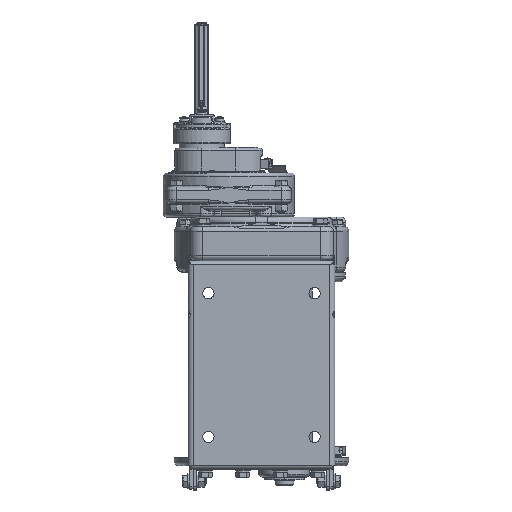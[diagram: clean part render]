
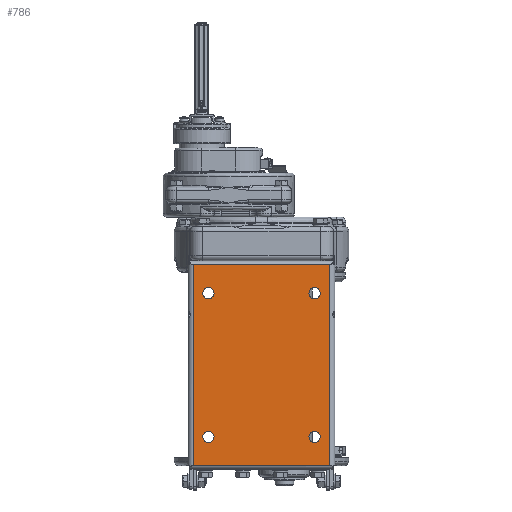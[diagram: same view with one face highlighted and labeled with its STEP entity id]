
A CAD part, front view. The second image highlights one B-rep face of the part: STEP entity #786.
In plain terms, the highlighted planar face has unit normal (0, -1, 0).
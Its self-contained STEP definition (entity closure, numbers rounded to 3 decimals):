
#786=ADVANCED_FACE('',(#10580,#10581,#10582,#10583,#10584),#10579,.F.);
#10579=PLANE('',#45892);
#10580=FACE_OUTER_BOUND('',#45893,.T.);
#10581=FACE_BOUND('',#45894,.T.);
#10582=FACE_BOUND('',#45895,.T.);
#10583=FACE_BOUND('',#45896,.T.);
#10584=FACE_BOUND('',#45897,.T.);
#45889=CARTESIAN_POINT('',(-171.432,-278.182,-566.035));
#45890=DIRECTION('',(0.,1.,0.));
#45891=DIRECTION('',(1.,0.,0.));
#45892=AXIS2_PLACEMENT_3D('',#45889,#45890,#45891);
#45893=EDGE_LOOP('',(#72919,#72920,#72921,#72922));
#45894=EDGE_LOOP('',(#72923,#72924,#72925));
#45895=EDGE_LOOP('',(#72926,#72927,#72928));
#45896=EDGE_LOOP('',(#72929,#72930,#72931));
#45897=EDGE_LOOP('',(#72932,#72933,#72934));
#72919=ORIENTED_EDGE('',*,*,#90101,.T.);
#72920=ORIENTED_EDGE('',*,*,#90113,.T.);
#72921=ORIENTED_EDGE('',*,*,#90110,.F.);
#72922=ORIENTED_EDGE('',*,*,#90173,.F.);
#72923=ORIENTED_EDGE('',*,*,#90183,.T.);
#72924=ORIENTED_EDGE('',*,*,#90184,.T.);
#72925=ORIENTED_EDGE('',*,*,#90185,.T.);
#72926=ORIENTED_EDGE('',*,*,#90186,.T.);
#72927=ORIENTED_EDGE('',*,*,#90187,.T.);
#72928=ORIENTED_EDGE('',*,*,#90188,.T.);
#72929=ORIENTED_EDGE('',*,*,#90189,.T.);
#72930=ORIENTED_EDGE('',*,*,#90190,.T.);
#72931=ORIENTED_EDGE('',*,*,#90191,.T.);
#72932=ORIENTED_EDGE('',*,*,#90192,.T.);
#72933=ORIENTED_EDGE('',*,*,#90193,.T.);
#72934=ORIENTED_EDGE('',*,*,#90194,.T.);
#90101=EDGE_CURVE('',#111485,#111478,#111486,.T.);
#90110=EDGE_CURVE('',#111539,#111546,#111547,.T.);
#90113=EDGE_CURVE('',#111478,#111546,#111565,.T.);
#90173=EDGE_CURVE('',#111485,#111539,#111957,.T.);
#90183=EDGE_CURVE('',#112020,#112021,#112022,.T.);
#90184=EDGE_CURVE('',#112021,#112028,#112029,.T.);
#90185=EDGE_CURVE('',#112028,#112020,#112035,.T.);
#90186=EDGE_CURVE('',#112041,#112042,#112043,.T.);
#90187=EDGE_CURVE('',#112042,#112049,#112050,.T.);
#90188=EDGE_CURVE('',#112049,#112041,#112056,.T.);
#90189=EDGE_CURVE('',#112062,#112063,#112064,.T.);
#90190=EDGE_CURVE('',#112063,#112070,#112071,.T.);
#90191=EDGE_CURVE('',#112070,#112062,#112077,.T.);
#90192=EDGE_CURVE('',#112083,#112084,#112085,.T.);
#90193=EDGE_CURVE('',#112084,#112091,#112092,.T.);
#90194=EDGE_CURVE('',#112091,#112083,#112098,.T.);
#111478=VERTEX_POINT('',#168912);
#111485=VERTEX_POINT('',#168917);
#111486=LINE('',#168918,#168919);
#111539=VERTEX_POINT('',#168998);
#111546=VERTEX_POINT('',#169003);
#111547=LINE('',#169004,#169005);
#111565=LINE('',#169015,#169016);
#111957=LINE('',#169253,#169254);
#112020=VERTEX_POINT('',#169294);
#112021=VERTEX_POINT('',#169295);
#112022=CIRCLE('',#169299,9.);
#112028=VERTEX_POINT('',#169300);
#112029=CIRCLE('',#169304,9.);
#112035=CIRCLE('',#169308,9.);
#112041=VERTEX_POINT('',#169309);
#112042=VERTEX_POINT('',#169310);
#112043=CIRCLE('',#169314,9.);
#112049=VERTEX_POINT('',#169315);
#112050=CIRCLE('',#169319,9.);
#112056=CIRCLE('',#169323,9.);
#112062=VERTEX_POINT('',#169324);
#112063=VERTEX_POINT('',#169325);
#112064=CIRCLE('',#169329,9.);
#112070=VERTEX_POINT('',#169330);
#112071=CIRCLE('',#169334,9.);
#112077=CIRCLE('',#169338,9.);
#112083=VERTEX_POINT('',#169339);
#112084=VERTEX_POINT('',#169340);
#112085=CIRCLE('',#169344,9.);
#112091=VERTEX_POINT('',#169345);
#112092=CIRCLE('',#169349,9.);
#112098=CIRCLE('',#169353,9.);
#168912=CARTESIAN_POINT('',(57.568,-278.182,-576.035));
#168917=CARTESIAN_POINT('',(57.568,-278.182,-898.035));
#168918=CARTESIAN_POINT('',(57.568,-278.182,-898.035));
#168919=VECTOR('',#168920,322.);
#168920=DIRECTION('',(0.,0.,1.));
#168998=CARTESIAN_POINT('',(-161.432,-278.182,-898.035));
#169003=CARTESIAN_POINT('',(-161.432,-278.182,-576.035));
#169004=CARTESIAN_POINT('',(-161.432,-278.182,-898.035));
#169005=VECTOR('',#169006,322.);
#169006=DIRECTION('',(0.,0.,1.));
#169015=CARTESIAN_POINT('',(57.568,-278.182,-576.035));
#169016=VECTOR('',#169017,219.);
#169017=DIRECTION('',(-1.,0.,0.));
#169253=CARTESIAN_POINT('',(57.568,-278.182,-898.035));
#169254=VECTOR('',#169255,219.);
#169255=DIRECTION('',(-1.,0.,0.));
#169294=CARTESIAN_POINT('',(42.068,-278.182,-852.035));
#169295=CARTESIAN_POINT('',(33.068,-278.182,-861.035));
#169296=CARTESIAN_POINT('',(33.068,-278.182,-852.035));
#169297=DIRECTION('',(0.,1.,0.));
#169298=DIRECTION('',(1.,0.,0.));
#169299=AXIS2_PLACEMENT_3D('',#169296,#169297,#169298);
#169300=CARTESIAN_POINT('',(33.067,-278.182,-843.035));
#169301=CARTESIAN_POINT('',(33.068,-278.182,-852.035));
#169302=DIRECTION('',(0.,1.,0.));
#169303=DIRECTION('',(1.,0.,0.));
#169304=AXIS2_PLACEMENT_3D('',#169301,#169302,#169303);
#169305=CARTESIAN_POINT('',(33.068,-278.182,-852.035));
#169306=DIRECTION('',(0.,1.,0.));
#169307=DIRECTION('',(1.,0.,0.));
#169308=AXIS2_PLACEMENT_3D('',#169305,#169306,#169307);
#169309=CARTESIAN_POINT('',(-127.932,-278.182,-852.035));
#169310=CARTESIAN_POINT('',(-136.932,-278.182,-861.035));
#169311=CARTESIAN_POINT('',(-136.932,-278.182,-852.035));
#169312=DIRECTION('',(0.,1.,0.));
#169313=DIRECTION('',(1.,0.,0.));
#169314=AXIS2_PLACEMENT_3D('',#169311,#169312,#169313);
#169315=CARTESIAN_POINT('',(-136.933,-278.182,-843.035));
#169316=CARTESIAN_POINT('',(-136.932,-278.182,-852.035));
#169317=DIRECTION('',(0.,1.,0.));
#169318=DIRECTION('',(1.,0.,0.));
#169319=AXIS2_PLACEMENT_3D('',#169316,#169317,#169318);
#169320=CARTESIAN_POINT('',(-136.932,-278.182,-852.035));
#169321=DIRECTION('',(0.,1.,0.));
#169322=DIRECTION('',(1.,0.,0.));
#169323=AXIS2_PLACEMENT_3D('',#169320,#169321,#169322);
#169324=CARTESIAN_POINT('',(-127.932,-278.182,-622.035));
#169325=CARTESIAN_POINT('',(-136.932,-278.182,-631.035));
#169326=CARTESIAN_POINT('',(-136.932,-278.182,-622.035));
#169327=DIRECTION('',(0.,1.,0.));
#169328=DIRECTION('',(1.,0.,0.));
#169329=AXIS2_PLACEMENT_3D('',#169326,#169327,#169328);
#169330=CARTESIAN_POINT('',(-136.933,-278.182,-613.035));
#169331=CARTESIAN_POINT('',(-136.932,-278.182,-622.035));
#169332=DIRECTION('',(0.,1.,0.));
#169333=DIRECTION('',(1.,0.,0.));
#169334=AXIS2_PLACEMENT_3D('',#169331,#169332,#169333);
#169335=CARTESIAN_POINT('',(-136.932,-278.182,-622.035));
#169336=DIRECTION('',(0.,1.,0.));
#169337=DIRECTION('',(1.,0.,0.));
#169338=AXIS2_PLACEMENT_3D('',#169335,#169336,#169337);
#169339=CARTESIAN_POINT('',(42.068,-278.182,-622.035));
#169340=CARTESIAN_POINT('',(33.068,-278.182,-631.035));
#169341=CARTESIAN_POINT('',(33.068,-278.182,-622.035));
#169342=DIRECTION('',(0.,1.,0.));
#169343=DIRECTION('',(1.,0.,0.));
#169344=AXIS2_PLACEMENT_3D('',#169341,#169342,#169343);
#169345=CARTESIAN_POINT('',(33.067,-278.182,-613.035));
#169346=CARTESIAN_POINT('',(33.068,-278.182,-622.035));
#169347=DIRECTION('',(0.,1.,0.));
#169348=DIRECTION('',(1.,0.,0.));
#169349=AXIS2_PLACEMENT_3D('',#169346,#169347,#169348);
#169350=CARTESIAN_POINT('',(33.068,-278.182,-622.035));
#169351=DIRECTION('',(0.,1.,0.));
#169352=DIRECTION('',(1.,0.,0.));
#169353=AXIS2_PLACEMENT_3D('',#169350,#169351,#169352);
